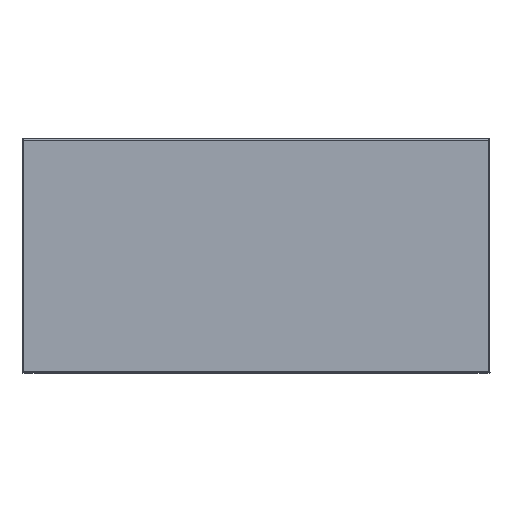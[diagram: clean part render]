
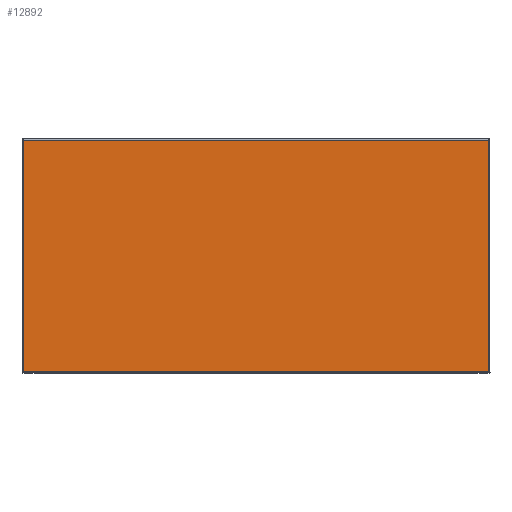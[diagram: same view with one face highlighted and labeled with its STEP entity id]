
A CAD part, top view. The second image highlights one B-rep face of the part: STEP entity #12892.
In plain terms, the highlighted planar face has unit normal (0, 0, 1) as drawn and (0, 1, 0) by its records, which use the part's own axes.
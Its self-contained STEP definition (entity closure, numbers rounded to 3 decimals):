
#1265=PLANE('',#15111);
#1935=FACE_OUTER_BOUND('',#2777,.T.);
#2777=EDGE_LOOP('',(#11776,#11777,#11778,#11779));
#3861=LINE('',#22922,#4962);
#3865=LINE('',#22935,#4966);
#3867=LINE('',#22938,#4968);
#3869=LINE('',#22941,#4970);
#4962=VECTOR('',#18996,10.);
#4966=VECTOR('',#19012,10.);
#4968=VECTOR('',#19016,10.);
#4970=VECTOR('',#19020,10.);
#6650=VERTEX_POINT('',#22880);
#6656=VERTEX_POINT('',#22903);
#6659=VERTEX_POINT('',#22913);
#6662=VERTEX_POINT('',#22926);
#8359=EDGE_CURVE('',#6650,#6659,#3861,.T.);
#8366=EDGE_CURVE('',#6659,#6662,#3865,.T.);
#8368=EDGE_CURVE('',#6662,#6656,#3867,.T.);
#8370=EDGE_CURVE('',#6656,#6650,#3869,.T.);
#11776=ORIENTED_EDGE('',*,*,#8359,.F.);
#11777=ORIENTED_EDGE('',*,*,#8370,.F.);
#11778=ORIENTED_EDGE('',*,*,#8368,.F.);
#11779=ORIENTED_EDGE('',*,*,#8366,.F.);
#12892=ADVANCED_FACE('',(#1935),#1265,.T.);
#15111=AXIS2_PLACEMENT_3D('',#22951,#19036,#19037);
#18996=DIRECTION('',(-1.,0.,0.));
#19012=DIRECTION('',(0.,0.,-1.));
#19016=DIRECTION('',(1.,0.,0.));
#19020=DIRECTION('',(0.,0.,1.));
#19036=DIRECTION('center_axis',(0.,1.,0.));
#19037=DIRECTION('ref_axis',(0.,0.,1.));
#22880=CARTESIAN_POINT('',(247.,100.,497.));
#22903=CARTESIAN_POINT('',(247.,100.,-497.));
#22913=CARTESIAN_POINT('',(-247.,100.,497.));
#22922=CARTESIAN_POINT('',(-125.,100.,497.));
#22926=CARTESIAN_POINT('',(-247.,100.,-497.));
#22935=CARTESIAN_POINT('',(-247.,100.,-250.));
#22938=CARTESIAN_POINT('',(125.,100.,-497.));
#22941=CARTESIAN_POINT('',(247.,100.,250.));
#22951=CARTESIAN_POINT('Origin',(0.,100.,0.));
